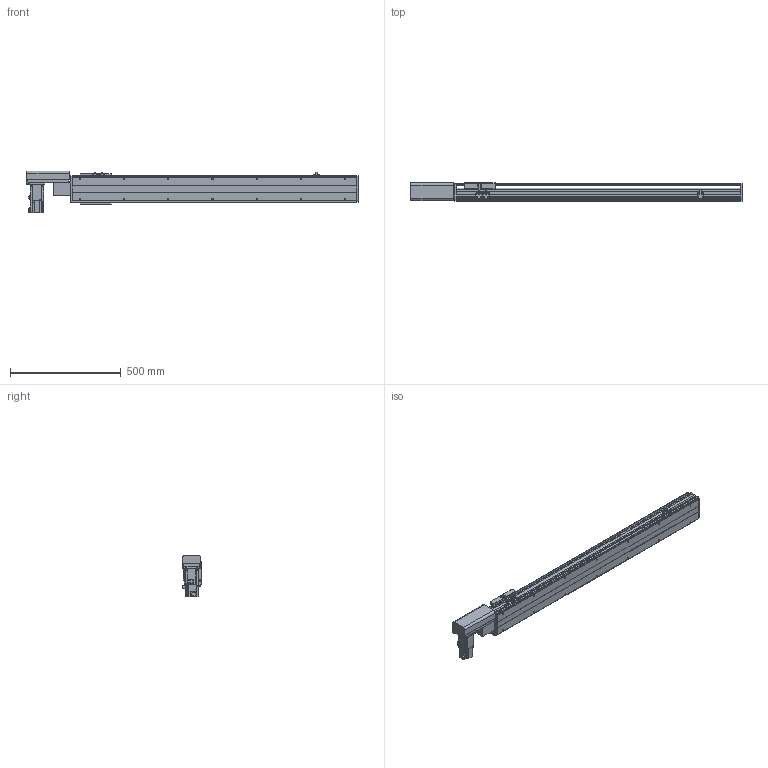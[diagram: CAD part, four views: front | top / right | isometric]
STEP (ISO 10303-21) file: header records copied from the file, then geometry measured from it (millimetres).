
FILE_DESCRIPTION(/* description */ ('STEP AP214'),/* implementation_level */ '2;1');
FILE_NAME(/* name */ 'PBS120-P40-S1000-R-T40-C1-N(0)',/* time_stamp */ '2022-06-06T02:06:47+02:00',/* author */ ('License CC BY-ND 4.0'),/* organization */ ('CADENAS'),/* preprocessor_version */ 'ST-DEVELOPER v18.102',/* originating_system */ 'PARTsolutions',/* authorisation */ ' ');
FILE_SCHEMA (('AUTOMOTIVE_DESIGN {1 0 10303 214 3 1 1}'));
Length unit declared in the file: millimetre
Products named in the file (7): PBS120-P40-S1000-R-T40-C1-N(0); PBS120_sensor; PBS120_plant; PBS120_sliser; T40-p1; PBS120T-R_motors; PBS120-S1000()_body
Assembly tree (8 placements, depth 2):
  PBS120-P40-S1000-R-T40-C1-N(0)
    PBS120_sensor  x3
    PBS120_plant
    PBS120_sliser
    T40-p1
    PBS120T-R_motors
    PBS120-S1000()_body
Bounding box: 1501 x 83 x 189.7 mm (x, y, z)
Volume: 5961401.7 mm3; surface area: 1163655.3 mm2
Topology: 8 solids, 8 shells, 822 faces, 2146 edges, 1381 vertices
Faces by surface type: plane 547, cylinder 227, cone 46, torus 2
Full cylindrical faces by diameter (mm): 2.459 x6, 3.242 x4, 4 x2, 4.134 x4, 4.5 x10, 4.917 x18, 5.5 x11, 6 x2, 6.6 x1, 7 x2, 8.5 x4, 9 x4, 12 x1, 14 x1, 30 x2, 40 x1, 50 x2
Entity records: 21474 total; most frequent: DIRECTION 3716, CARTESIAN_POINT 3659, ORIENTED_EDGE 3490, EDGE_CURVE 1745, AXIS2_PLACEMENT_3D 1244, LINE 1228, VECTOR 1228, VERTEX_POINT 1187
